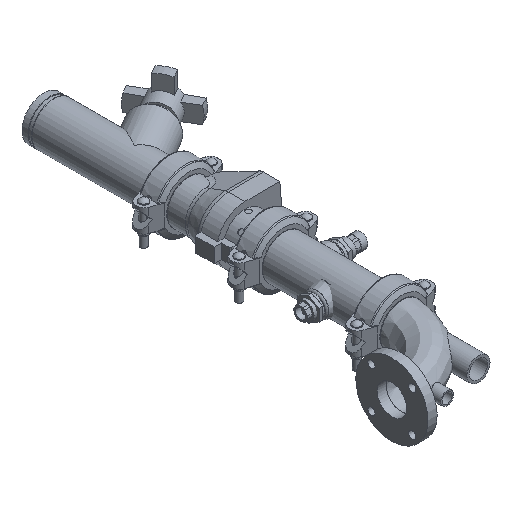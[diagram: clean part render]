
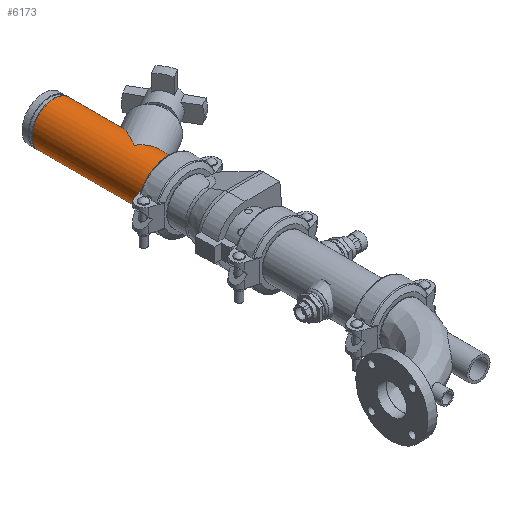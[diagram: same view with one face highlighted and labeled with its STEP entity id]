
A CAD part, isometric view. The second image highlights one B-rep face of the part: STEP entity #6173.
In plain terms, the highlighted cylindrical face has radius 57.15 mm (diameter 114.3 mm), a full revolution.
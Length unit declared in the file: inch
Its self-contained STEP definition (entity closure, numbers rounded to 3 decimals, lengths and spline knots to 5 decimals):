
#126=ELLIPSE('',#6737,4.5,2.25);
#127=ELLIPSE('',#6738,2.59808,2.25);
#128=ELLIPSE('',#6741,2.59808,2.25);
#129=ELLIPSE('',#6742,4.5,2.25);
#217=LINE('',#9490,#668);
#218=LINE('',#9496,#669);
#668=VECTOR('',#7595,2.25);
#669=VECTOR('',#7600,2.25);
#1090=CYLINDRICAL_SURFACE('',#6734,2.25);
#1293=FACE_OUTER_BOUND('',#1639,.T.);
#1639=EDGE_LOOP('',(#3988,#3989,#3990,#3991,#3992,#3993,#3994,#3995,#3996,
#3997,#3998,#3999));
#2055=CIRCLE('',#6735,2.25);
#2056=CIRCLE('',#6736,2.25);
#2057=CIRCLE('',#6739,2.25);
#2058=CIRCLE('',#6740,2.25);
#2424=VERTEX_POINT('',#9485);
#2425=VERTEX_POINT('',#9486);
#2426=VERTEX_POINT('',#9489);
#2427=VERTEX_POINT('',#9491);
#2428=VERTEX_POINT('',#9493);
#2429=VERTEX_POINT('',#9495);
#2430=VERTEX_POINT('',#9497);
#2431=VERTEX_POINT('',#9500);
#3042=EDGE_CURVE('',#2424,#2425,#2055,.T.);
#3043=EDGE_CURVE('',#2425,#2424,#2056,.T.);
#3044=EDGE_CURVE('',#2425,#2426,#217,.T.);
#3045=EDGE_CURVE('',#2426,#2427,#126,.T.);
#3046=EDGE_CURVE('',#2427,#2428,#127,.T.);
#3047=EDGE_CURVE('',#2428,#2429,#218,.T.);
#3048=EDGE_CURVE('',#2429,#2430,#2057,.T.);
#3049=EDGE_CURVE('',#2430,#2429,#2058,.T.);
#3050=EDGE_CURVE('',#2428,#2431,#128,.T.);
#3051=EDGE_CURVE('',#2431,#2426,#129,.T.);
#3988=ORIENTED_EDGE('',*,*,#3042,.F.);
#3989=ORIENTED_EDGE('',*,*,#3043,.F.);
#3990=ORIENTED_EDGE('',*,*,#3044,.T.);
#3991=ORIENTED_EDGE('',*,*,#3045,.T.);
#3992=ORIENTED_EDGE('',*,*,#3046,.T.);
#3993=ORIENTED_EDGE('',*,*,#3047,.T.);
#3994=ORIENTED_EDGE('',*,*,#3048,.T.);
#3995=ORIENTED_EDGE('',*,*,#3049,.T.);
#3996=ORIENTED_EDGE('',*,*,#3047,.F.);
#3997=ORIENTED_EDGE('',*,*,#3050,.T.);
#3998=ORIENTED_EDGE('',*,*,#3051,.T.);
#3999=ORIENTED_EDGE('',*,*,#3044,.F.);
#6173=ADVANCED_FACE('',(#1293),#1090,.T.);
#6734=AXIS2_PLACEMENT_3D('',#9484,#7589,#7590);
#6735=AXIS2_PLACEMENT_3D('',#9487,#7591,#7592);
#6736=AXIS2_PLACEMENT_3D('',#9488,#7593,#7594);
#6737=AXIS2_PLACEMENT_3D('',#9492,#7596,#7597);
#6738=AXIS2_PLACEMENT_3D('',#9494,#7598,#7599);
#6739=AXIS2_PLACEMENT_3D('',#9498,#7601,#7602);
#6740=AXIS2_PLACEMENT_3D('',#9499,#7603,#7604);
#6741=AXIS2_PLACEMENT_3D('',#9501,#7605,#7606);
#6742=AXIS2_PLACEMENT_3D('',#9502,#7607,#7608);
#7589=DIRECTION('center_axis',(1.,0.,0.));
#7590=DIRECTION('ref_axis',(0.,1.,0.));
#7591=DIRECTION('center_axis',(1.,0.,0.));
#7592=DIRECTION('ref_axis',(0.,0.,-1.));
#7593=DIRECTION('center_axis',(1.,0.,0.));
#7594=DIRECTION('ref_axis',(0.,0.,-1.));
#7595=DIRECTION('',(-1.,0.,0.));
#7596=DIRECTION('center_axis',(0.5,0.866,0.));
#7597=DIRECTION('ref_axis',(-0.866,0.5,0.));
#7598=DIRECTION('center_axis',(-0.866,0.5,0.));
#7599=DIRECTION('ref_axis',(-0.5,-0.866,0.));
#7600=DIRECTION('',(-1.,0.,0.));
#7601=DIRECTION('center_axis',(1.,0.,0.));
#7602=DIRECTION('ref_axis',(0.,0.,-1.));
#7603=DIRECTION('center_axis',(1.,0.,0.));
#7604=DIRECTION('ref_axis',(0.,0.,-1.));
#7605=DIRECTION('center_axis',(-0.866,0.5,0.));
#7606=DIRECTION('ref_axis',(-0.5,-0.866,0.));
#7607=DIRECTION('center_axis',(0.5,0.866,0.));
#7608=DIRECTION('ref_axis',(-0.866,0.5,0.));
#9484=CARTESIAN_POINT('Origin',(0.,0.,0.));
#9485=CARTESIAN_POINT('',(5.875,2.25,0.));
#9486=CARTESIAN_POINT('',(5.875,-2.25,0.));
#9487=CARTESIAN_POINT('Origin',(5.875,0.,0.));
#9488=CARTESIAN_POINT('Origin',(5.875,0.,0.));
#9489=CARTESIAN_POINT('',(1.35625,-2.25,0.));
#9490=CARTESIAN_POINT('',(0.,-2.25,0.));
#9491=CARTESIAN_POINT('',(-2.54086,0.,-2.25));
#9492=CARTESIAN_POINT('Origin',(-2.54086,0.,
0.));
#9493=CARTESIAN_POINT('',(-3.8399,-2.25,0.));
#9494=CARTESIAN_POINT('Origin',(-2.54086,0.,
0.));
#9495=CARTESIAN_POINT('',(-5.875,-2.25,0.));
#9496=CARTESIAN_POINT('',(0.,-2.25,0.));
#9497=CARTESIAN_POINT('',(-5.875,2.25,0.));
#9498=CARTESIAN_POINT('Origin',(-5.875,0.,0.));
#9499=CARTESIAN_POINT('Origin',(-5.875,0.,0.));
#9500=CARTESIAN_POINT('',(-2.54086,0.,2.25));
#9501=CARTESIAN_POINT('Origin',(-2.54086,0.,
0.));
#9502=CARTESIAN_POINT('Origin',(-2.54086,0.,
0.));
